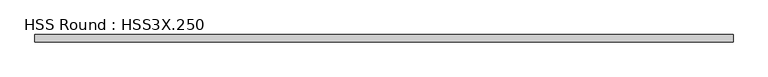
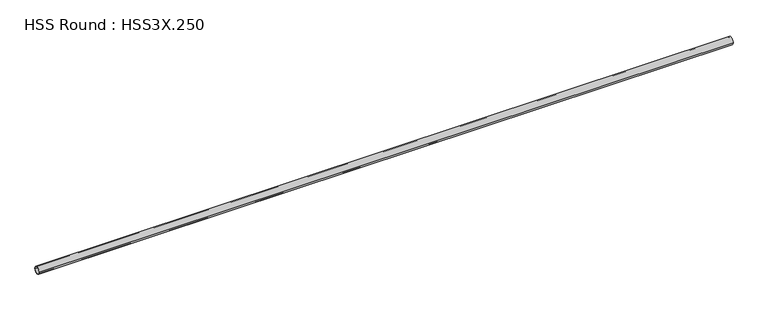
"""IFC4 building model written with IfcOpenShell, lengths in millimetres: member geometry, HSS Round : HSS3X.250."""

import ifcopenshell
import ifcopenshell.guid

model = None  # the IFC model being written
_history = None  # IfcOwnerHistory: only IFC2X3 demands one
_inside = {}  # id of a spatial element -> (the spatial element, [elements in it])
_under = {}  # id of a project, library or spatial element -> (it, [spatial elements below it])
_declared = {}  # id of a project -> (the project, [libraries it declares])
_typed = {}  # id of a type object -> (the type object, [elements of that type])
_made_of = {}  # id of a material, layer set ... -> (it, [elements and type objects made of it])


def new_model(schema):
    """Start an empty IFC model of exactly this schema.

    Asked for "IFC4X3", IfcOpenShell would pick the latest addendum, in which some entities
    have other attributes; the version numbers below select the first issue.
    IFC2X3 requires an IfcOwnerHistory on every rooted entity: one is made here for all.
    """
    global model, _history
    if schema == "IFC4X3":
        model = ifcopenshell.file(schema_version=(4, 3, 0, 0))
    else:
        model = ifcopenshell.file(schema=schema)
    _inside.clear()
    _under.clear()
    _declared.clear()
    _typed.clear()
    _made_of.clear()
    _history = None
    if model.schema == "IFC2X3":
        org = make("IfcOrganization", Name="unknown")
        user = make(
            "IfcPersonAndOrganization",
            ThePerson=make("IfcPerson", FamilyName="unknown"),
            TheOrganization=org,
        )
        app = make(
            "IfcApplication",
            ApplicationDeveloper=org,
            Version="unknown",
            ApplicationFullName="unknown",
            ApplicationIdentifier="unknown",
        )
        _history = make(
            "IfcOwnerHistory",
            OwningUser=user,
            OwningApplication=app,
            ChangeAction="ADDED",
            CreationDate=0,
        )
    return model


def make(cls, **values):
    """One entity of the class cls with the attributes given. An attribute that is None is left unset."""
    return model.create_entity(
        cls, **{name: value for name, value in values.items() if value is not None}
    )


def rooted(cls, **values):
    """An entity with a GlobalId (a new one), such as an element, a storey or a relation."""
    return make(cls, GlobalId=ifcopenshell.guid.new(), OwnerHistory=_history, **values)


def si_unit(unit_type, name, prefix=None):
    """IfcSIUnit, for example si_unit("LENGTHUNIT", "METRE", prefix="MILLI")."""
    return make("IfcSIUnit", UnitType=unit_type, Prefix=prefix, Name=name)


def assignment(units):
    """IfcUnitAssignment: the units of a project."""
    return None if units is None else make("IfcUnitAssignment", Units=units)


def point(xyz):
    """IfcCartesianPoint."""
    return None if xyz is None else make("IfcCartesianPoint", Coordinates=xyz)


def direction(xyz):
    """IfcDirection."""
    return None if xyz is None else make("IfcDirection", DirectionRatios=xyz)


def frame(location, z_axis=None, x_axis=None):
    """IfcAxis2Placement3D, a coordinate frame: its origin and axes. An axis left out is left unset."""
    return make(
        "IfcAxis2Placement3D",
        Location=point(location),
        Axis=direction(z_axis),
        RefDirection=direction(x_axis),
    )


def frame_2d(location, x_axis=None):
    """IfcAxis2Placement2D, a coordinate frame in the plane: its origin and x axis."""
    return make(
        "IfcAxis2Placement2D", Location=point(location), RefDirection=direction(x_axis)
    )


def origin():
    """The frame at (0, 0, 0) with its axes left unset."""
    return frame((0.0, 0.0, 0.0))


def origin_2d():
    """The frame at (0, 0) in the plane with its x axis left unset."""
    return frame_2d((0.0, 0.0))


def place(relative_to, where):
    """IfcLocalPlacement: puts the frame where relative to a parent placement (None: the world)."""
    return make(
        "IfcLocalPlacement", PlacementRelTo=relative_to, RelativePlacement=where
    )


def context(
    kind, dimensions, precision=None, world=None, true_north=None, identifier=None
):
    """IfcGeometricRepresentationContext, for example the 3D "Model" context."""
    return make(
        "IfcGeometricRepresentationContext",
        ContextIdentifier=identifier,
        ContextType=kind,
        CoordinateSpaceDimension=dimensions,
        Precision=precision,
        WorldCoordinateSystem=world,
        TrueNorth=true_north,
    )


def project(units=None, contexts=None):
    """IfcProject with its units and contexts."""
    return rooted(
        "IfcProject",
        Name="project",
        RepresentationContexts=contexts,
        UnitsInContext=assignment(units),
    )


def spatial(cls, under=None, at=None, **own):
    """A site, building, storey or space (cls), placed at a placement, below another one or the project."""
    s = rooted(cls, ObjectPlacement=at, **own)
    if under is not None:
        _under.setdefault(under.id(), (under, []))[1].append(s)
    return s


def circle_curve(where, radius):
    """IfcCircle in the frame where."""
    return make("IfcCircle", Position=where, Radius=radius)


def trimmed(basis, trim1, trim2, sense, master):
    """IfcTrimmedCurve: the piece of a basis curve between two trims."""
    return make(
        "IfcTrimmedCurve",
        BasisCurve=basis,
        Trim1=trim1,
        Trim2=trim2,
        SenseAgreement=sense,
        MasterRepresentation=master,
    )


def segment(curve, same_sense, transition):
    """IfcCompositeCurveSegment."""
    return make(
        "IfcCompositeCurveSegment",
        Transition=transition,
        SameSense=same_sense,
        ParentCurve=curve,
    )


def composite_curve(segments, self_intersect=None):
    """IfcCompositeCurve: segments joined end to end."""
    return make("IfcCompositeCurve", Segments=segments, SelfIntersect=self_intersect)


def outline(outer, holes=None, kind="AREA"):
    """IfcArbitraryClosedProfileDef: a profile drawn as a closed curve; with holes, ...WithVoids."""
    if holes is None:
        return make("IfcArbitraryClosedProfileDef", ProfileType=kind, OuterCurve=outer)
    return make(
        "IfcArbitraryProfileDefWithVoids",
        ProfileType=kind,
        OuterCurve=outer,
        InnerCurves=holes,
    )


def extrude(swept, where, along, depth):
    """IfcExtrudedAreaSolid: the profile swept, set in the frame where, extruded along a direction by depth."""
    return make(
        "IfcExtrudedAreaSolid",
        SweptArea=swept,
        Position=where,
        ExtrudedDirection=direction(along),
        Depth=depth,
    )


def shape(context_of_items, identifier, shape_type, items):
    """IfcShapeRepresentation: the items that make up one representation, for example the "Body"."""
    return make(
        "IfcShapeRepresentation",
        ContextOfItems=context_of_items,
        RepresentationIdentifier=identifier,
        RepresentationType=shape_type,
        Items=items,
    )


def source(mapping_origin, context_of_items, identifier, shape_type, items):
    """IfcRepresentationMap: a shape defined once, which mapped items show again and again."""
    return make(
        "IfcRepresentationMap",
        MappingOrigin=mapping_origin,
        MappedRepresentation=shape(context_of_items, identifier, shape_type, items),
    )


def transform(
    local_origin,
    x_axis=None,
    y_axis=None,
    z_axis=None,
    scale=None,
    scale2=None,
    scale3=None,
    uniform=True,
):
    """IfcCartesianTransformationOperator3D, or its non-uniform kind. x_axis, y_axis, z_axis: its Axis1, 2, 3."""
    if uniform:
        return make(
            "IfcCartesianTransformationOperator3D",
            Axis1=direction(x_axis),
            Axis2=direction(y_axis),
            LocalOrigin=point(local_origin),
            Scale=scale,
            Axis3=direction(z_axis),
        )
    return make(
        "IfcCartesianTransformationOperator3DnonUniform",
        Axis1=direction(x_axis),
        Axis2=direction(y_axis),
        LocalOrigin=point(local_origin),
        Scale=scale,
        Axis3=direction(z_axis),
        Scale2=scale2,
        Scale3=scale3,
    )


def mapped(mapping_source, mapping_target):
    """IfcMappedItem: shows the shape of a source again, moved by a transform."""
    return make(
        "IfcMappedItem", MappingSource=mapping_source, MappingTarget=mapping_target
    )


def made_of(thing, what):
    """Note that an element or type object is made of a material, layer set ...; save() writes the relation."""
    if what is not None:
        _made_of.setdefault(what.id(), (what, []))[1].append(thing)
    return thing


def element(
    cls,
    number,
    at=None,
    inside=None,
    cuts=None,
    type_object=None,
    material=None,
    context=None,
    identifier="Body",
    shape_type=None,
    held_by="IfcProductDefinitionShape",
    body=None,
    shapes=None,
    **own,
):
    """One element of the class cls, such as IfcWall. Its Tag is "e" and its number.

    at: its placement. inside: the storey or other place that contains it. cuts: it is an
    opening in that element (IfcRelVoidsElement). A single representation is given by context,
    identifier, shape_type and body (its items); several are given by shapes. held_by: the class
    of the entity that holds the representations. save() writes the other relations.
    """
    e = rooted(cls, Tag="e%d" % number, ObjectPlacement=at, **own)
    if body is not None:
        shapes = [shape(context, identifier, shape_type, body)]
    if shapes is not None:
        e.Representation = make(held_by, Representations=shapes)
    if inside is not None:
        _inside.setdefault(inside.id(), (inside, []))[1].append(e)
    if cuts is not None:
        rooted(
            "IfcRelVoidsElement", RelatingBuildingElement=cuts, RelatedOpeningElement=e
        )
    if type_object is not None:
        _typed.setdefault(type_object.id(), (type_object, []))[1].append(e)
    return made_of(e, material)


def aggregate(whole, parts):
    """IfcRelAggregates: a whole, such as a stair, and the parts it consists of."""
    return rooted("IfcRelAggregates", RelatingObject=whole, RelatedObjects=parts)


def save(model, path):
    """Write the relations noted so far, then the file.

    IfcRelAggregates (storeys below a building ...), IfcRelContainedInSpatialStructure (elements
    in a storey), IfcRelDefinesByType, IfcRelAssociatesMaterial and IfcRelDeclares: one each for
    every whole, place, type object, material and project.
    """
    for whole, parts in _under.values():
        aggregate(whole, parts)
    for where, things in _inside.values():
        rooted(
            "IfcRelContainedInSpatialStructure",
            RelatedElements=things,
            RelatingStructure=where,
        )
    for kind, things in _typed.values():
        rooted("IfcRelDefinesByType", RelatedObjects=things, RelatingType=kind)
    for what, things in _made_of.values():
        rooted("IfcRelAssociatesMaterial", RelatedObjects=things, RelatingMaterial=what)
    for by, libraries in _declared.values():
        rooted("IfcRelDeclares", RelatingContext=by, RelatedDefinitions=libraries)
    model.write(path)


def hss_round_hss3x_250_58398f4c(model_context):
    return source(origin(), model_context, "Body", "SweptSolid", [
        extrude(outline(composite_curve([segment(trimmed(circle_curve(origin_2d(), 38.1), [point((-38.1, 0.0))], [point((38.1, 0.0))], False, "CARTESIAN"), True, "CONTINUOUS"), segment(trimmed(circle_curve(origin_2d(), 38.1), [point((38.1, 0.0))], [point((-38.1, 0.0))], False, "CARTESIAN"), True, "CONTINUOUS")], self_intersect=False), holes=[composite_curve([segment(trimmed(circle_curve(origin_2d(), 31.75), [point((31.75, 0.0))], [point((-31.75, 0.0))], True, "CARTESIAN"), True, "CONTINUOUS"), segment(trimmed(circle_curve(origin_2d(), 31.75), [point((-31.75, 0.0))], [point((31.75, 0.0))], True, "CARTESIAN"), True, "CONTINUOUS")], self_intersect=False)]), frame((-3644.2341311, 0.0, 0.0), z_axis=(1.0, 0.0, 0.0), x_axis=(0.0, 1.0, 0.0)), (0.0, 0.0, 1.0), 7199.1141413),
    ])


if __name__ == "__main__":
    model = new_model("IFC4")
    model_context = context("Model", 3, world=origin())
    ifc_project = project(units=[si_unit("LENGTHUNIT", "METRE", prefix="MILLI")], contexts=[model_context])
    site = spatial("IfcSite", under=ifc_project)
    building = spatial("IfcBuilding", under=site)
    placement = place(None, origin())
    hss_round_hss3x_250_shape = hss_round_hss3x_250_58398f4c(model_context)
    element("IfcMember", 1, ObjectType="HSS Round : HSS3X.250", at=placement, inside=building, context=model_context, shape_type="MappedRepresentation", body=[
        mapped(hss_round_hss3x_250_shape, transform((0.0, 0.0, 0.0), x_axis=(1.0, 0.0, 0.0), y_axis=(0.0, 1.0, 0.0), z_axis=(0.0, 0.0, 1.0))),
    ])
    save(model, "model.ifc")
